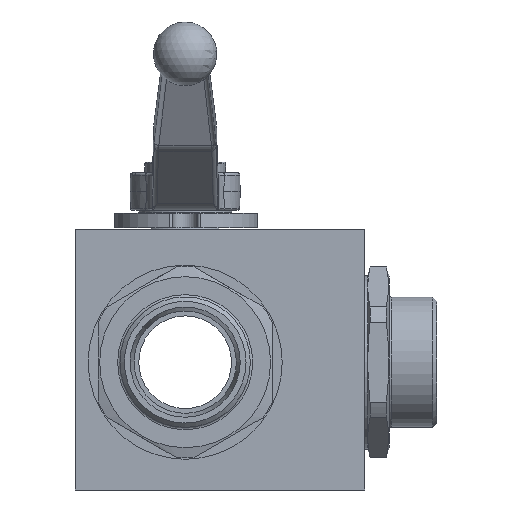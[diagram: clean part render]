
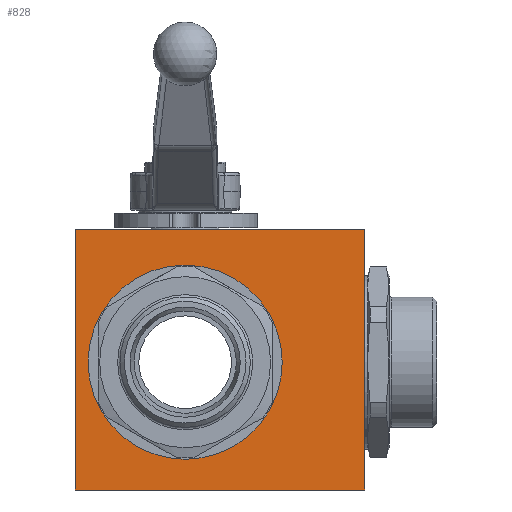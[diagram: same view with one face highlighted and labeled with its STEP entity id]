
A CAD part, front view. The second image highlights one B-rep face of the part: STEP entity #828.
In plain terms, the highlighted planar face has unit normal (0, -1, 0).
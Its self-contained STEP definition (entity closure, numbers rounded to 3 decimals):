
#828 = ADVANCED_FACE( '', ( #1787, #1788 ), #1789, .T. );
#1787 = FACE_OUTER_BOUND( '', #3153, .T. );
#1788 = FACE_BOUND( '', #3154, .T. );
#1789 = PLANE( '', #3155 );
#3153 = EDGE_LOOP( '', ( #5534, #5535, #5536, #5537 ) );
#3154 = EDGE_LOOP( '', ( #5538 ) );
#3155 = AXIS2_PLACEMENT_3D( '', #5539, #5540, #5541 );
#5534 = ORIENTED_EDGE( '', *, *, #7979, .T. );
#5535 = ORIENTED_EDGE( '', *, *, #7980, .F. );
#5536 = ORIENTED_EDGE( '', *, *, #7981, .F. );
#5537 = ORIENTED_EDGE( '', *, *, #7982, .T. );
#5538 = ORIENTED_EDGE( '', *, *, #7983, .T. );
#5539 = CARTESIAN_POINT( '', ( -38., -41., 45.9 ) );
#5540 = DIRECTION( '', ( 0., -1., 0. ) );
#5541 = DIRECTION( '', ( 0., 0., -1. ) );
#7979 = EDGE_CURVE( '', #9502, #9503, #9504, .T. );
#7980 = EDGE_CURVE( '', #9505, #9503, #9506, .T. );
#7981 = EDGE_CURVE( '', #9507, #9505, #9508, .T. );
#7982 = EDGE_CURVE( '', #9507, #9502, #9509, .T. );
#7983 = EDGE_CURVE( '', #9510, #9510, #9511, .T. );
#9502 = VERTEX_POINT( '', #12478 );
#9503 = VERTEX_POINT( '', #12479 );
#9504 = LINE( '', #12480, #12481 );
#9505 = VERTEX_POINT( '', #12482 );
#9506 = LINE( '', #12483, #12484 );
#9507 = VERTEX_POINT( '', #12485 );
#9508 = LINE( '', #12486, #12487 );
#9509 = LINE( '', #12488, #12489 );
#9510 = VERTEX_POINT( '', #12490 );
#9511 = CIRCLE( '', #12491, 33.5 );
#12478 = CARTESIAN_POINT( '', ( -38., -41., -44.1 ) );
#12479 = CARTESIAN_POINT( '', ( 62., -41., -44.1 ) );
#12480 = CARTESIAN_POINT( '', ( -38., -41., -44.1 ) );
#12481 = VECTOR( '', #14738, 1000. );
#12482 = CARTESIAN_POINT( '', ( 62., -41., 45.9 ) );
#12483 = CARTESIAN_POINT( '', ( 62., -41., 45.9 ) );
#12484 = VECTOR( '', #14739, 1000. );
#12485 = CARTESIAN_POINT( '', ( -38., -41., 45.9 ) );
#12486 = CARTESIAN_POINT( '', ( -38., -41., 45.9 ) );
#12487 = VECTOR( '', #14740, 1000. );
#12488 = CARTESIAN_POINT( '', ( -38., -41., 45.9 ) );
#12489 = VECTOR( '', #14741, 1000. );
#12490 = CARTESIAN_POINT( '', ( 33.5, -41., 0. ) );
#12491 = AXIS2_PLACEMENT_3D( '', #14742, #14743, #14744 );
#14738 = DIRECTION( '', ( 1., 0., 0. ) );
#14739 = DIRECTION( '', ( 0., 0., -1. ) );
#14740 = DIRECTION( '', ( 1., 0., 0. ) );
#14741 = DIRECTION( '', ( 0., 0., -1. ) );
#14742 = CARTESIAN_POINT( '', ( 0., -41., 0. ) );
#14743 = DIRECTION( '', ( 0., 1., 0. ) );
#14744 = DIRECTION( '', ( 1., 0., 0. ) );
